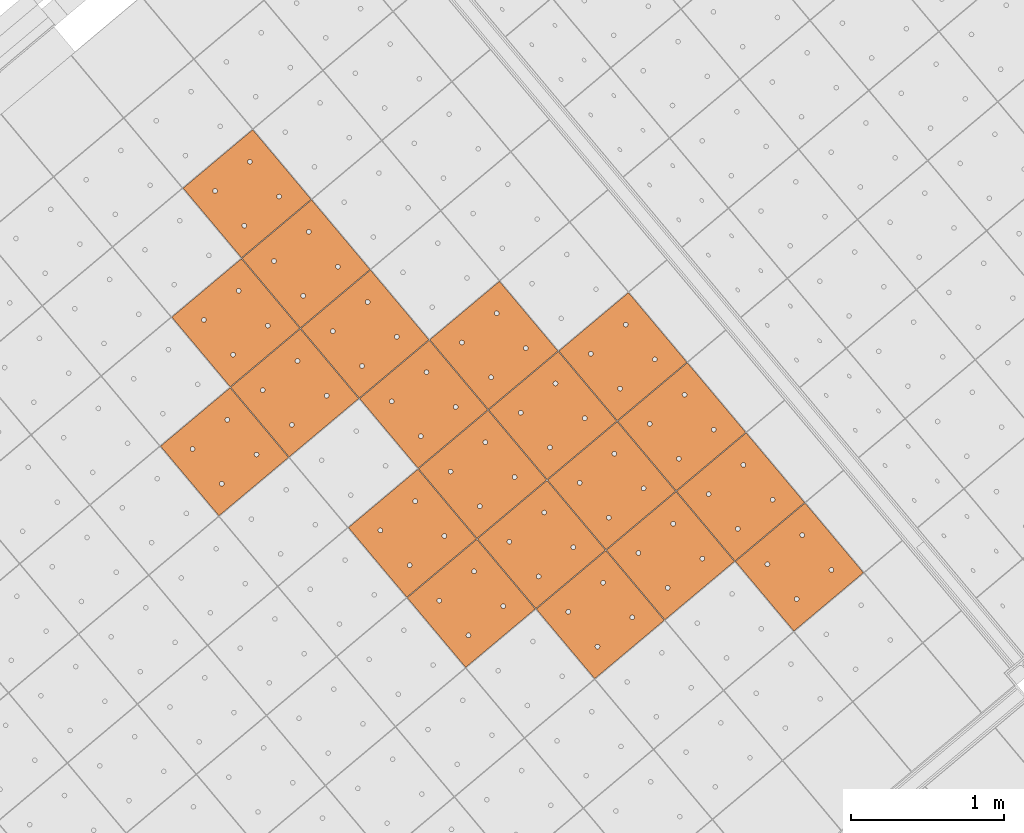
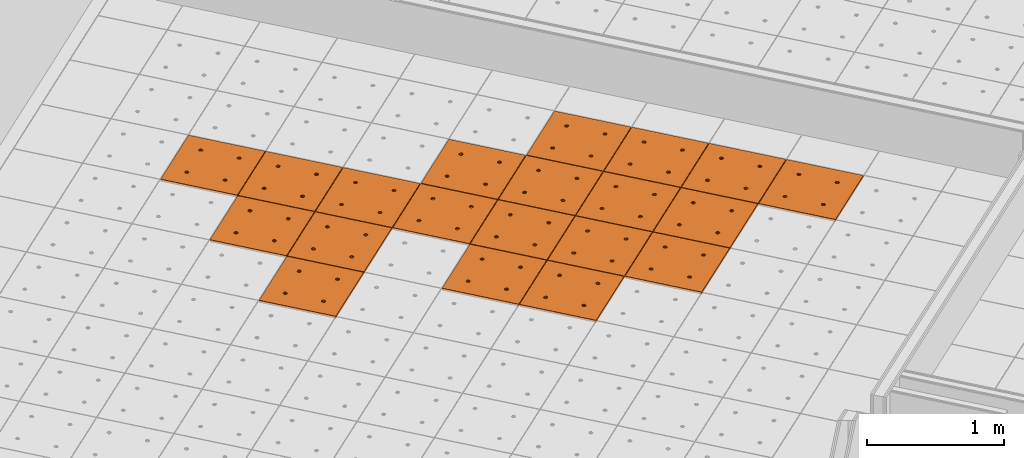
# One storey, part 157 of 338: 20 proxies, 1 element without a shape of its own.
"""IFC2X3 building model written with IfcOpenShell, lengths in millimetres."""

from ifc_helpers import new_model, entity, si_unit, converted_unit, derived_unit, money_unit, direction, frame, origin_with_axes, place, context, subcontext, project, spatial, faceted_brep, source, transform, mapped, material, type_object, type_shapes, element, aggregate, save


model = new_model("IFC2X3")

# Units and contexts
model_context = context("Model", 3, precision=0.01, world=origin_with_axes(), true_north=direction((0.0, 1.0)))
plan_context = context("Plan", 3, precision=0.01, world=origin_with_axes(), true_north=direction((0.0, 1.0)))
body_context = subcontext(model_context, "Body", "Model", "MODEL_VIEW")
ifc_project = project(units=[si_unit("LENGTHUNIT", "METRE", prefix="MILLI"), si_unit("AREAUNIT", "SQUARE_METRE"), si_unit("VOLUMEUNIT", "CUBIC_METRE"), converted_unit("PLANEANGLEUNIT", "DEGREE", entity("IfcPlaneAngleMeasure", 0.0174532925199), si_unit("PLANEANGLEUNIT", "RADIAN"), dimensions=[0, 0, 0, 0, 0, 0, 0]), money_unit("EUR"), converted_unit("TIMEUNIT", "Year", entity("IfcTimeMeasure", 31556926.0), si_unit("TIMEUNIT", "SECOND"), dimensions=[0, 0, 1, 0, 0, 0, 0]), si_unit("MASSUNIT", "GRAM", prefix="KILO"), si_unit("THERMODYNAMICTEMPERATUREUNIT", "DEGREE_CELSIUS"), si_unit("LUMINOUSINTENSITYUNIT", "LUMEN"), si_unit("ENERGYUNIT", "JOULE", prefix="MEGA"), derived_unit("THERMALCONDUCTANCEUNIT", [(si_unit("POWERUNIT", "WATT"), 1), (si_unit("LENGTHUNIT", "METRE"), -1), (si_unit("THERMODYNAMICTEMPERATUREUNIT", "KELVIN"), -1)]), derived_unit("SPECIFICHEATCAPACITYUNIT", [(si_unit("ENERGYUNIT", "JOULE"), 1), (si_unit("MASSUNIT", "GRAM", prefix="KILO"), -1), (si_unit("THERMODYNAMICTEMPERATUREUNIT", "KELVIN"), -1)]), derived_unit("MASSDENSITYUNIT", [(si_unit("MASSUNIT", "GRAM", prefix="KILO"), 1), (si_unit("VOLUMEUNIT", "CUBIC_METRE"), -1)])], contexts=[model_context, plan_context])

# Site, building, storey
site_placement = place(None, origin_with_axes())
site = spatial("IfcSite", under=ifc_project, at=site_placement, Name="Fortuinstraat Woensdrecht", CompositionType="ELEMENT")
building_placement = place(site_placement, origin_with_axes())
building = spatial("IfcBuilding", under=site, at=building_placement, Name="IKC Fortuna", CompositionType="ELEMENT")
storey_placement = place(building_placement, origin_with_axes())
storey = spatial("IfcBuildingStorey", under=building, at=storey_placement, Name="00 begane grond", CompositionType="ELEMENT", Elevation=0.0)

# Covering, proxies
covering_type = type_object("IfcCoveringType", Name="Curtain Wall Type", PredefinedType="CEILING")
covering_placement = place(storey_placement, frame((9775.85169731, -1002.28242867, 4660.0), z_axis=(0.0, 0.0, 1.0), x_axis=(1.0, 0.0, 0.0)))
covering = element("IfcCovering", 1, at=covering_placement, inside=storey, type_object=covering_type, Name="45_Plafondafwerking_P01", PredefinedType="CEILING")
ifc_material = material(Name="Gipsplaat")
building_element_proxy_type = type_object("IfcBuildingElementProxyType", Name="Main Panel 600 x 600 x 20", PredefinedType="NOTDEFINED")
shared_shape = source(origin_with_axes(), body_context, "Body", "Brep", [
    faceted_brep([(2.49999999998, 2.49999999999, -10.0), (300.0, 2.49999999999, -10.0), (300.0, 2.49999999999, 10.0), (2.49999999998, 2.49999999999, 10.0), (2.49999999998, 300.0, -10.0), (2.49999999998, 597.5, -10.0), (300.0, 597.5, -10.0), (597.5, 597.5, -10.0), (597.5, 300.0, -10.0), (597.5, 2.49999999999, -10.0), (166.25, 450.06232995, -10.0), (165.79423259, 452.64711538, -10.0), (164.896546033, 455.11348892, -10.0), (163.58421608, 457.38651108, -10.0), (161.897117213, 459.39711721, -10.0), (159.886511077, 461.08421608, -10.0), (157.613488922, 462.39654603, -10.0), (155.147115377, 463.29423259, -10.0), (152.562329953, 463.75, -10.0), (149.937670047, 463.75, -10.0), (147.352884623, 463.29423259, -10.0), (144.886511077, 462.39654603, -10.0), (142.613488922, 461.08421608, -10.0), (140.602882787, 459.39711721, -10.0), (138.91578392, 457.38651108, -10.0), (137.603453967, 455.11348892, -10.0), (136.705767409, 452.64711538, -10.0), (136.25, 450.06232995, -10.0), (136.25, 448.75, -10.0), (136.25, 447.43767005, -10.0), (136.705767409, 444.85288462, -10.0), (137.603453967, 442.38651108, -10.0), (138.91578392, 440.11348892, -10.0), (140.602882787, 438.10288279, -10.0), (142.613488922, 436.41578392, -10.0), (144.886511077, 435.10345397, -10.0), (147.352884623, 434.20576741, -10.0), (149.937670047, 433.75, -10.0), (152.562329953, 433.75, -10.0), (155.147115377, 434.20576741, -10.0), (157.613488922, 435.10345397, -10.0), (159.886511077, 436.41578392, -10.0), (161.897117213, 438.10288279, -10.0), (163.58421608, 440.11348892, -10.0), (164.896546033, 442.38651108, -10.0), (165.79423259, 444.85288462, -10.0), (166.25, 447.43767005, -10.0), (463.75, 450.06232995, -10.0), (463.29423259, 452.64711538, -10.0), (462.396546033, 455.11348892, -10.0), (461.08421608, 457.38651108, -10.0), (459.397117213, 459.39711721, -10.0), (457.386511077, 461.08421608, -10.0), (455.113488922, 462.39654603, -10.0), (452.647115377, 463.29423259, -10.0), (450.062329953, 463.75, -10.0), (447.437670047, 463.75, -10.0), (444.852884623, 463.29423259, -10.0), (442.386511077, 462.39654603, -10.0), (440.113488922, 461.08421608, -10.0), (438.102882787, 459.39711721, -10.0), (436.41578392, 457.38651108, -10.0), (435.103453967, 455.11348892, -10.0), (434.205767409, 452.64711538, -10.0), (433.75, 450.06232995, -10.0), (433.75, 448.75, -10.0), (433.75, 447.43767005, -10.0), (434.205767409, 444.85288462, -10.0), (435.103453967, 442.38651108, -10.0), (436.41578392, 440.11348892, -10.0), (438.102882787, 438.10288279, -10.0), (440.113488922, 436.41578392, -10.0), (442.386511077, 435.10345397, -10.0), (444.852884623, 434.20576741, -10.0), (447.437670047, 433.75, -10.0), (450.062329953, 433.75, -10.0), (452.647115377, 434.20576741, -10.0), (455.113488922, 435.10345397, -10.0), (457.386511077, 436.41578392, -10.0), (459.397117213, 438.10288279, -10.0), (461.08421608, 440.11348892, -10.0), (462.396546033, 442.38651108, -10.0), (463.29423259, 444.85288462, -10.0), (463.75, 447.43767005, -10.0), (463.75, 152.56232995, -10.0), (463.29423259, 155.14711538, -10.0), (462.396546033, 157.61348892, -10.0), (461.08421608, 159.88651108, -10.0), (459.397117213, 161.89711721, -10.0), (457.386511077, 163.58421608, -10.0), (455.113488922, 164.89654603, -10.0), (452.647115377, 165.79423259, -10.0), (450.062329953, 166.25, -10.0), (447.437670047, 166.25, -10.0), (444.852884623, 165.79423259, -10.0), (442.386511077, 164.89654603, -10.0), (440.113488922, 163.58421608, -10.0), (438.102882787, 161.89711721, -10.0), (436.41578392, 159.88651108, -10.0), (435.103453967, 157.61348892, -10.0), (434.205767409, 155.14711538, -10.0), (433.75, 152.56232995, -10.0), (433.75, 151.25, -10.0), (433.75, 149.93767005, -10.0), (434.205767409, 147.35288462, -10.0), (435.103453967, 144.88651108, -10.0), (436.41578392, 142.61348892, -10.0), (438.102882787, 140.60288279, -10.0), (440.113488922, 138.91578392, -10.0), (442.386511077, 137.60345397, -10.0), (444.852884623, 136.70576741, -10.0), (447.437670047, 136.25, -10.0), (450.062329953, 136.25, -10.0), (452.647115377, 136.70576741, -10.0), (455.113488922, 137.60345397, -10.0), (457.386511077, 138.91578392, -10.0), (459.397117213, 140.60288279, -10.0), (461.08421608, 142.61348892, -10.0), (462.396546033, 144.88651108, -10.0), (463.29423259, 147.35288462, -10.0), (463.75, 149.93767005, -10.0), (166.25, 152.56232995, -10.0), (165.79423259, 155.14711538, -10.0), (164.896546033, 157.61348892, -10.0), (163.58421608, 159.88651108, -10.0), (161.897117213, 161.89711721, -10.0), (159.886511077, 163.58421608, -10.0), (157.613488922, 164.89654603, -10.0), (155.147115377, 165.79423259, -10.0), (152.562329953, 166.25, -10.0), (149.937670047, 166.25, -10.0), (147.352884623, 165.79423259, -10.0), (144.886511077, 164.89654603, -10.0), (142.613488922, 163.58421608, -10.0), (140.602882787, 161.89711721, -10.0), (138.91578392, 159.88651108, -10.0), (137.603453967, 157.61348892, -10.0), (136.705767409, 155.14711538, -10.0), (136.25, 152.56232995, -10.0), (136.25, 151.25, -10.0), (136.25, 149.93767005, -10.0), (136.705767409, 147.35288462, -10.0), (137.603453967, 144.88651108, -10.0), (138.91578392, 142.61348892, -10.0), (140.602882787, 140.60288279, -10.0), (142.613488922, 138.91578392, -10.0), (144.886511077, 137.60345397, -10.0), (147.352884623, 136.70576741, -10.0), (149.937670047, 136.25, -10.0), (152.562329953, 136.25, -10.0), (155.147115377, 136.70576741, -10.0), (157.613488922, 137.60345397, -10.0), (159.886511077, 138.91578392, -10.0), (161.897117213, 140.60288279, -10.0), (163.58421608, 142.61348892, -10.0), (164.896546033, 144.88651108, -10.0), (165.79423259, 147.35288462, -10.0), (166.25, 149.93767005, -10.0), (597.5, 2.49999999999, 10.0), (597.5, 300.0, 10.0), (597.5, 597.5, 10.0), (300.0, 597.5, 10.0), (2.49999999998, 597.5, 10.0), (2.49999999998, 300.0, 10.0), (166.25, 450.06232995, 10.0), (166.25, 447.43767005, 10.0), (165.79423259, 444.85288462, 10.0), (164.896546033, 442.38651108, 10.0), (163.58421608, 440.11348892, 10.0), (161.897117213, 438.10288279, 10.0), (159.886511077, 436.41578392, 10.0), (157.613488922, 435.10345397, 10.0), (155.147115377, 434.20576741, 10.0), (152.562329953, 433.75, 10.0), (149.937670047, 433.75, 10.0), (147.352884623, 434.20576741, 10.0), (144.886511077, 435.10345397, 10.0), (142.613488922, 436.41578392, 10.0), (140.602882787, 438.10288279, 10.0), (138.91578392, 440.11348892, 10.0), (137.603453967, 442.38651108, 10.0), (136.705767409, 444.85288462, 10.0), (136.25, 447.43767005, 10.0), (136.25, 448.75, 10.0), (136.25, 450.06232995, 10.0), (136.705767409, 452.64711538, 10.0), (137.603453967, 455.11348892, 10.0), (138.91578392, 457.38651108, 10.0), (140.602882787, 459.39711721, 10.0), (142.613488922, 461.08421608, 10.0), (144.886511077, 462.39654603, 10.0), (147.352884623, 463.29423259, 10.0), (149.937670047, 463.75, 10.0), (152.562329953, 463.75, 10.0), (155.147115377, 463.29423259, 10.0), (157.613488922, 462.39654603, 10.0), (159.886511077, 461.08421608, 10.0), (161.897117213, 459.39711721, 10.0), (163.58421608, 457.38651108, 10.0), (164.896546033, 455.11348892, 10.0), (165.79423259, 452.64711538, 10.0), (463.75, 450.06232995, 10.0), (463.75, 447.43767005, 10.0), (463.29423259, 444.85288462, 10.0), (462.396546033, 442.38651108, 10.0), (461.08421608, 440.11348892, 10.0), (459.397117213, 438.10288279, 10.0), (457.386511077, 436.41578392, 10.0), (455.113488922, 435.10345397, 10.0), (452.647115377, 434.20576741, 10.0), (450.062329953, 433.75, 10.0), (447.437670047, 433.75, 10.0), (444.852884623, 434.20576741, 10.0), (442.386511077, 435.10345397, 10.0), (440.113488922, 436.41578392, 10.0), (438.102882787, 438.10288279, 10.0), (436.41578392, 440.11348892, 10.0), (435.103453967, 442.38651108, 10.0), (434.205767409, 444.85288462, 10.0), (433.75, 447.43767005, 10.0), (433.75, 448.75, 10.0), (433.75, 450.06232995, 10.0), (434.205767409, 452.64711538, 10.0), (435.103453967, 455.11348892, 10.0), (436.41578392, 457.38651108, 10.0), (438.102882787, 459.39711721, 10.0), (440.113488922, 461.08421608, 10.0), (442.386511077, 462.39654603, 10.0), (444.852884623, 463.29423259, 10.0), (447.437670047, 463.75, 10.0), (450.062329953, 463.75, 10.0), (452.647115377, 463.29423259, 10.0), (455.113488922, 462.39654603, 10.0), (457.386511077, 461.08421608, 10.0), (459.397117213, 459.39711721, 10.0), (461.08421608, 457.38651108, 10.0), (462.396546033, 455.11348892, 10.0), (463.29423259, 452.64711538, 10.0), (463.75, 152.56232995, 10.0), (463.75, 149.93767005, 10.0), (463.29423259, 147.35288462, 10.0), (462.396546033, 144.88651108, 10.0), (461.08421608, 142.61348892, 10.0), (459.397117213, 140.60288279, 10.0), (457.386511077, 138.91578392, 10.0), (455.113488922, 137.60345397, 10.0), (452.647115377, 136.70576741, 10.0), (450.062329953, 136.25, 10.0), (447.437670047, 136.25, 10.0), (444.852884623, 136.70576741, 10.0), (442.386511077, 137.60345397, 10.0), (440.113488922, 138.91578392, 10.0), (438.102882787, 140.60288279, 10.0), (436.41578392, 142.61348892, 10.0), (435.103453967, 144.88651108, 10.0), (434.205767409, 147.35288462, 10.0), (433.75, 149.93767005, 10.0), (433.75, 151.25, 10.0), (433.75, 152.56232995, 10.0), (434.205767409, 155.14711538, 10.0), (435.103453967, 157.61348892, 10.0), (436.41578392, 159.88651108, 10.0), (438.102882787, 161.89711721, 10.0), (440.113488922, 163.58421608, 10.0), (442.386511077, 164.89654603, 10.0), (444.852884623, 165.79423259, 10.0), (447.437670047, 166.25, 10.0), (450.062329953, 166.25, 10.0), (452.647115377, 165.79423259, 10.0), (455.113488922, 164.89654603, 10.0), (457.386511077, 163.58421608, 10.0), (459.397117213, 161.89711721, 10.0), (461.08421608, 159.88651108, 10.0), (462.396546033, 157.61348892, 10.0), (463.29423259, 155.14711538, 10.0), (166.25, 152.56232995, 10.0), (166.25, 149.93767005, 10.0), (165.79423259, 147.35288462, 10.0), (164.896546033, 144.88651108, 10.0), (163.58421608, 142.61348892, 10.0), (161.897117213, 140.60288279, 10.0), (159.886511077, 138.91578392, 10.0), (157.613488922, 137.60345397, 10.0), (155.147115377, 136.70576741, 10.0), (152.562329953, 136.25, 10.0), (149.937670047, 136.25, 10.0), (147.352884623, 136.70576741, 10.0), (144.886511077, 137.60345397, 10.0), (142.613488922, 138.91578392, 10.0), (140.602882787, 140.60288279, 10.0), (138.91578392, 142.61348892, 10.0), (137.603453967, 144.88651108, 10.0), (136.705767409, 147.35288462, 10.0), (136.25, 149.93767005, 10.0), (136.25, 151.25, 10.0), (136.25, 152.56232995, 10.0), (136.705767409, 155.14711538, 10.0), (137.603453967, 157.61348892, 10.0), (138.91578392, 159.88651108, 10.0), (140.602882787, 161.89711721, 10.0), (142.613488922, 163.58421608, 10.0), (144.886511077, 164.89654603, 10.0), (147.352884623, 165.79423259, 10.0), (149.937670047, 166.25, 10.0), (152.562329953, 166.25, 10.0), (155.147115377, 165.79423259, 10.0), (157.613488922, 164.89654603, 10.0), (159.886511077, 163.58421608, 10.0), (161.897117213, 161.89711721, 10.0), (163.58421608, 159.88651108, 10.0), (164.896546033, 157.61348892, 10.0), (165.79423259, 155.14711538, 10.0)], [[[0, 1, 2, 3]], [[0, 4, 5, 6, 7, 8, 9, 1], [10, 11, 12, 13, 14, 15, 16, 17, 18, 19, 20, 21, 22, 23, 24, 25, 26, 27, 28, 29, 30, 31, 32, 33, 34, 35, 36, 37, 38, 39, 40, 41, 42, 43, 44, 45, 46], [47, 48, 49, 50, 51, 52, 53, 54, 55, 56, 57, 58, 59, 60, 61, 62, 63, 64, 65, 66, 67, 68, 69, 70, 71, 72, 73, 74, 75, 76, 77, 78, 79, 80, 81, 82, 83], [84, 85, 86, 87, 88, 89, 90, 91, 92, 93, 94, 95, 96, 97, 98, 99, 100, 101, 102, 103, 104, 105, 106, 107, 108, 109, 110, 111, 112, 113, 114, 115, 116, 117, 118, 119, 120], [121, 122, 123, 124, 125, 126, 127, 128, 129, 130, 131, 132, 133, 134, 135, 136, 137, 138, 139, 140, 141, 142, 143, 144, 145, 146, 147, 148, 149, 150, 151, 152, 153, 154, 155, 156, 157]], [[1, 9, 158, 2]], [[3, 2, 158, 159, 160, 161, 162, 163], [164, 165, 166, 167, 168, 169, 170, 171, 172, 173, 174, 175, 176, 177, 178, 179, 180, 181, 182, 183, 184, 185, 186, 187, 188, 189, 190, 191, 192, 193, 194, 195, 196, 197, 198, 199, 200], [201, 202, 203, 204, 205, 206, 207, 208, 209, 210, 211, 212, 213, 214, 215, 216, 217, 218, 219, 220, 221, 222, 223, 224, 225, 226, 227, 228, 229, 230, 231, 232, 233, 234, 235, 236, 237], [238, 239, 240, 241, 242, 243, 244, 245, 246, 247, 248, 249, 250, 251, 252, 253, 254, 255, 256, 257, 258, 259, 260, 261, 262, 263, 264, 265, 266, 267, 268, 269, 270, 271, 272, 273, 274], [275, 276, 277, 278, 279, 280, 281, 282, 283, 284, 285, 286, 287, 288, 289, 290, 291, 292, 293, 294, 295, 296, 297, 298, 299, 300, 301, 302, 303, 304, 305, 306, 307, 308, 309, 310, 311]], [[4, 0, 3, 163]], [[5, 4, 163, 162]], [[6, 5, 162, 161]], [[7, 6, 161, 160]], [[8, 7, 160, 159]], [[9, 8, 159, 158]], [[11, 10, 164, 200]], [[12, 11, 200, 199]], [[13, 12, 199, 198]], [[14, 13, 198, 197]], [[15, 14, 197, 196]], [[16, 15, 196, 195]], [[17, 16, 195, 194]], [[18, 17, 194, 193]], [[19, 18, 193, 192]], [[20, 19, 192, 191]], [[21, 20, 191, 190]], [[22, 21, 190, 189]], [[23, 22, 189, 188]], [[24, 23, 188, 187]], [[25, 24, 187, 186]], [[26, 25, 186, 185]], [[27, 26, 185, 184]], [[28, 27, 184, 183]], [[29, 28, 183, 182]], [[30, 29, 182, 181]], [[31, 30, 181, 180]], [[32, 31, 180, 179]], [[33, 32, 179, 178]], [[34, 33, 178, 177]], [[35, 34, 177, 176]], [[36, 35, 176, 175]], [[37, 36, 175, 174]], [[38, 37, 174, 173]], [[39, 38, 173, 172]], [[40, 39, 172, 171]], [[41, 40, 171, 170]], [[42, 41, 170, 169]], [[43, 42, 169, 168]], [[44, 43, 168, 167]], [[45, 44, 167, 166]], [[46, 45, 166, 165]], [[10, 46, 165, 164]], [[48, 47, 201, 237]], [[49, 48, 237, 236]], [[50, 49, 236, 235]], [[51, 50, 235, 234]], [[52, 51, 234, 233]], [[53, 52, 233, 232]], [[54, 53, 232, 231]], [[55, 54, 231, 230]], [[56, 55, 230, 229]], [[57, 56, 229, 228]], [[58, 57, 228, 227]], [[59, 58, 227, 226]], [[60, 59, 226, 225]], [[61, 60, 225, 224]], [[62, 61, 224, 223]], [[63, 62, 223, 222]], [[64, 63, 222, 221]], [[65, 64, 221, 220]], [[66, 65, 220, 219]], [[67, 66, 219, 218]], [[68, 67, 218, 217]], [[69, 68, 217, 216]], [[70, 69, 216, 215]], [[71, 70, 215, 214]], [[72, 71, 214, 213]], [[73, 72, 213, 212]], [[74, 73, 212, 211]], [[75, 74, 211, 210]], [[76, 75, 210, 209]], [[77, 76, 209, 208]], [[78, 77, 208, 207]], [[79, 78, 207, 206]], [[80, 79, 206, 205]], [[81, 80, 205, 204]], [[82, 81, 204, 203]], [[83, 82, 203, 202]], [[47, 83, 202, 201]], [[85, 84, 238, 274]], [[86, 85, 274, 273]], [[87, 86, 273, 272]], [[88, 87, 272, 271]], [[89, 88, 271, 270]], [[90, 89, 270, 269]], [[91, 90, 269, 268]], [[92, 91, 268, 267]], [[93, 92, 267, 266]], [[94, 93, 266, 265]], [[95, 94, 265, 264]], [[96, 95, 264, 263]], [[97, 96, 263, 262]], [[98, 97, 262, 261]], [[99, 98, 261, 260]], [[100, 99, 260, 259]], [[101, 100, 259, 258]], [[102, 101, 258, 257]], [[103, 102, 257, 256]], [[104, 103, 256, 255]], [[105, 104, 255, 254]], [[106, 105, 254, 253]], [[107, 106, 253, 252]], [[108, 107, 252, 251]], [[109, 108, 251, 250]], [[110, 109, 250, 249]], [[111, 110, 249, 248]], [[112, 111, 248, 247]], [[113, 112, 247, 246]], [[114, 113, 246, 245]], [[115, 114, 245, 244]], [[116, 115, 244, 243]], [[117, 116, 243, 242]], [[118, 117, 242, 241]], [[119, 118, 241, 240]], [[120, 119, 240, 239]], [[84, 120, 239, 238]], [[122, 121, 275, 311]], [[123, 122, 311, 310]], [[124, 123, 310, 309]], [[125, 124, 309, 308]], [[126, 125, 308, 307]], [[127, 126, 307, 306]], [[128, 127, 306, 305]], [[129, 128, 305, 304]], [[130, 129, 304, 303]], [[131, 130, 303, 302]], [[132, 131, 302, 301]], [[133, 132, 301, 300]], [[134, 133, 300, 299]], [[135, 134, 299, 298]], [[136, 135, 298, 297]], [[137, 136, 297, 296]], [[138, 137, 296, 295]], [[139, 138, 295, 294]], [[140, 139, 294, 293]], [[141, 140, 293, 292]], [[142, 141, 292, 291]], [[143, 142, 291, 290]], [[144, 143, 290, 289]], [[145, 144, 289, 288]], [[146, 145, 288, 287]], [[147, 146, 287, 286]], [[148, 147, 286, 285]], [[149, 148, 285, 284]], [[150, 149, 284, 283]], [[151, 150, 283, 282]], [[152, 151, 282, 281]], [[153, 152, 281, 280]], [[154, 153, 280, 279]], [[155, 154, 279, 278]], [[156, 155, 278, 277]], [[157, 156, 277, 276]], [[121, 157, 276, 275]]]),
])
type_shapes(building_element_proxy_type, [shared_shape])
proxy_1_placement = place(covering_placement, frame((-4390.30729272, 3365.29376383, 0.0), z_axis=(0.0, 0.0, 1.0), x_axis=(1.0, 0.0, 0.0)))
proxy_1 = element("IfcBuildingElementProxy", 2, at=proxy_1_placement, type_object=building_element_proxy_type, material=ifc_material, Name="__600x648 Rockfon Krios", context=body_context, shape_type="MappedRepresentation", body=[
    mapped(shared_shape, transform((36.9769427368, 422.649625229, 0.0), x_axis=(-0.766044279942, -0.642787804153, 0.0), y_axis=(0.642787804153, -0.766044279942, 0.0), z_axis=(0.0, 0.0, 1.0))),
])
proxy_2_placement = place(covering_placement, frame((-4464.2611782, 2519.99451337, 0.0), z_axis=(0.0, 0.0, 1.0), x_axis=(1.0, 0.0, 0.0)))
proxy_2 = element("IfcBuildingElementProxy", 3, at=proxy_2_placement, type_object=building_element_proxy_type, material=ifc_material, Name="__600x663 Rockfon Krios", context=body_context, shape_type="MappedRepresentation", body=[
    mapped(shared_shape, transform((36.9769427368, 422.649625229, 0.0), x_axis=(-0.766044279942, -0.642787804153, 0.0), y_axis=(0.642787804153, -0.766044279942, 0.0), z_axis=(0.0, 0.0, 1.0))),
])
proxy_3_placement = place(covering_placement, frame((-1928.36342683, 2298.13285695, 0.0), z_axis=(0.0, 0.0, 1.0), x_axis=(1.0, 0.0, 0.0)))
proxy_3 = element("IfcBuildingElementProxy", 4, at=proxy_3_placement, type_object=building_element_proxy_type, material=ifc_material, Name="__600x693 Rockfon Krios", context=body_context, shape_type="MappedRepresentation", body=[
    mapped(shared_shape, transform((36.9769427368, 422.649625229, 0.0), x_axis=(-0.766044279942, -0.642787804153, 0.0), y_axis=(0.642787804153, -0.766044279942, 0.0), z_axis=(0.0, 0.0, 1.0))),
])
proxy_4_placement = place(covering_placement, frame((-1542.69074433, 1838.50628898, 0.0), z_axis=(0.0, 0.0, 1.0), x_axis=(1.0, 0.0, 0.0)))
proxy_4 = element("IfcBuildingElementProxy", 5, at=proxy_4_placement, type_object=building_element_proxy_type, material=ifc_material, Name="__600x694 Rockfon Krios", context=body_context, shape_type="MappedRepresentation", body=[
    mapped(shared_shape, transform((36.9769427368, 422.649625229, 0.0), x_axis=(-0.766044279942, -0.642787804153, 0.0), y_axis=(0.642787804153, -0.766044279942, 0.0), z_axis=(0.0, 0.0, 1.0))),
])
proxy_5_placement = place(covering_placement, frame((-1157.01806184, 1378.87972102, 0.0), z_axis=(0.0, 0.0, 1.0), x_axis=(1.0, 0.0, 0.0)))
proxy_5 = element("IfcBuildingElementProxy", 6, at=proxy_5_placement, type_object=building_element_proxy_type, material=ifc_material, Name="__600x695 Rockfon Krios", context=body_context, shape_type="MappedRepresentation", body=[
    mapped(shared_shape, transform((36.9769427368, 422.649625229, 0.0), x_axis=(-0.766044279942, -0.642787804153, 0.0), y_axis=(0.642787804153, -0.766044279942, 0.0), z_axis=(0.0, 0.0, 1.0))),
])
proxy_6_placement = place(covering_placement, frame((-771.345379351, 919.253153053, 0.0), z_axis=(0.0, 0.0, 1.0), x_axis=(1.0, 0.0, 0.0)))
proxy_6 = element("IfcBuildingElementProxy", 7, at=proxy_6_placement, type_object=building_element_proxy_type, material=ifc_material, Name="__600x696 Rockfon Krios", context=body_context, shape_type="MappedRepresentation", body=[
    mapped(shared_shape, transform((36.9769427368, 422.649625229, 0.0), x_axis=(-0.766044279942, -0.642787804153, 0.0), y_axis=(0.642787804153, -0.766044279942, 0.0), z_axis=(0.0, 0.0, 1.0))),
])
proxy_7_placement = place(covering_placement, frame((-2773.66267728, 2372.08674242, 0.0), z_axis=(0.0, 0.0, 1.0), x_axis=(1.0, 0.0, 0.0)))
proxy_7 = element("IfcBuildingElementProxy", 8, at=proxy_7_placement, type_object=building_element_proxy_type, material=ifc_material, Name="__600x701 Rockfon Krios", context=body_context, shape_type="MappedRepresentation", body=[
    mapped(shared_shape, transform((36.9769427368, 422.649625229, 0.0), x_axis=(-0.766044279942, -0.642787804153, 0.0), y_axis=(0.642787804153, -0.766044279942, 0.0), z_axis=(0.0, 0.0, 1.0))),
])
proxy_8_placement = place(covering_placement, frame((-2387.98999479, 1912.46017446, 0.0), z_axis=(0.0, 0.0, 1.0), x_axis=(1.0, 0.0, 0.0)))
proxy_8 = element("IfcBuildingElementProxy", 9, at=proxy_8_placement, type_object=building_element_proxy_type, material=ifc_material, Name="__600x702 Rockfon Krios", context=body_context, shape_type="MappedRepresentation", body=[
    mapped(shared_shape, transform((36.9769427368, 422.649625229, 0.0), x_axis=(-0.766044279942, -0.642787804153, 0.0), y_axis=(0.642787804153, -0.766044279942, 0.0), z_axis=(0.0, 0.0, 1.0))),
])
proxy_9_placement = place(covering_placement, frame((-2002.3173123, 1452.83360649, 0.0), z_axis=(0.0, 0.0, 1.0), x_axis=(1.0, 0.0, 0.0)))
proxy_9 = element("IfcBuildingElementProxy", 10, at=proxy_9_placement, type_object=building_element_proxy_type, material=ifc_material, Name="__600x703 Rockfon Krios", context=body_context, shape_type="MappedRepresentation", body=[
    mapped(shared_shape, transform((36.9769427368, 422.649625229, 0.0), x_axis=(-0.766044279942, -0.642787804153, 0.0), y_axis=(0.642787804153, -0.766044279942, 0.0), z_axis=(0.0, 0.0, 1.0))),
])
proxy_10_placement = place(covering_placement, frame((-1616.64462981, 993.207038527, 0.0), z_axis=(0.0, 0.0, 1.0), x_axis=(1.0, 0.0, 0.0)))
proxy_10 = element("IfcBuildingElementProxy", 11, at=proxy_10_placement, type_object=building_element_proxy_type, material=ifc_material, Name="__600x704 Rockfon Krios", context=body_context, shape_type="MappedRepresentation", body=[
    mapped(shared_shape, transform((36.9769427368, 422.649625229, 0.0), x_axis=(-0.766044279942, -0.642787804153, 0.0), y_axis=(0.642787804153, -0.766044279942, 0.0), z_axis=(0.0, 0.0, 1.0))),
])
proxy_11_placement = place(covering_placement, frame((-4004.63461023, 2905.66719586, 0.0), z_axis=(0.0, 0.0, 1.0), x_axis=(1.0, 0.0, 0.0)))
proxy_11 = element("IfcBuildingElementProxy", 12, at=proxy_11_placement, type_object=building_element_proxy_type, material=ifc_material, Name="__600x708 Rockfon Krios", context=body_context, shape_type="MappedRepresentation", body=[
    mapped(shared_shape, transform((36.9769427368, 422.649625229, 0.0), x_axis=(-0.766044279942, -0.642787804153, 0.0), y_axis=(0.642787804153, -0.766044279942, 0.0), z_axis=(0.0, 0.0, 1.0))),
])
proxy_12_placement = place(covering_placement, frame((-3618.96192774, 2446.0406279, 0.0), z_axis=(0.0, 0.0, 1.0), x_axis=(1.0, 0.0, 0.0)))
proxy_12 = element("IfcBuildingElementProxy", 13, at=proxy_12_placement, type_object=building_element_proxy_type, material=ifc_material, Name="__600x709 Rockfon Krios", context=body_context, shape_type="MappedRepresentation", body=[
    mapped(shared_shape, transform((36.9769427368, 422.649625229, 0.0), x_axis=(-0.766044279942, -0.642787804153, 0.0), y_axis=(0.642787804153, -0.766044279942, 0.0), z_axis=(0.0, 0.0, 1.0))),
])
proxy_13_placement = place(covering_placement, frame((-3233.28924525, 1986.41405993, 0.0), z_axis=(0.0, 0.0, 1.0), x_axis=(1.0, 0.0, 0.0)))
proxy_13 = element("IfcBuildingElementProxy", 14, at=proxy_13_placement, type_object=building_element_proxy_type, material=ifc_material, Name="__600x710 Rockfon Krios", context=body_context, shape_type="MappedRepresentation", body=[
    mapped(shared_shape, transform((36.9769427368, 422.649625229, 0.0), x_axis=(-0.766044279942, -0.642787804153, 0.0), y_axis=(0.642787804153, -0.766044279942, 0.0), z_axis=(0.0, 0.0, 1.0))),
])
proxy_14_placement = place(covering_placement, frame((-2847.61656276, 1526.78749197, 0.0), z_axis=(0.0, 0.0, 1.0), x_axis=(1.0, 0.0, 0.0)))
proxy_14 = element("IfcBuildingElementProxy", 15, at=proxy_14_placement, type_object=building_element_proxy_type, material=ifc_material, Name="__600x711 Rockfon Krios", context=body_context, shape_type="MappedRepresentation", body=[
    mapped(shared_shape, transform((36.9769427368, 422.649625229, 0.0), x_axis=(-0.766044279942, -0.642787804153, 0.0), y_axis=(0.642787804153, -0.766044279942, 0.0), z_axis=(0.0, 0.0, 1.0))),
])
proxy_15_placement = place(covering_placement, frame((-2461.94388027, 1067.160924, 0.0), z_axis=(0.0, 0.0, 1.0), x_axis=(1.0, 0.0, 0.0)))
proxy_15 = element("IfcBuildingElementProxy", 16, at=proxy_15_placement, type_object=building_element_proxy_type, material=ifc_material, Name="__600x712 Rockfon Krios", context=body_context, shape_type="MappedRepresentation", body=[
    mapped(shared_shape, transform((36.9769427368, 422.649625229, 0.0), x_axis=(-0.766044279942, -0.642787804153, 0.0), y_axis=(0.642787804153, -0.766044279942, 0.0), z_axis=(0.0, 0.0, 1.0))),
])
proxy_16_placement = place(covering_placement, frame((-2076.27119777, 607.534356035, 0.0), z_axis=(0.0, 0.0, 1.0), x_axis=(1.0, 0.0, 0.0)))
proxy_16 = element("IfcBuildingElementProxy", 17, at=proxy_16_placement, type_object=building_element_proxy_type, material=ifc_material, Name="__600x713 Rockfon Krios", context=body_context, shape_type="MappedRepresentation", body=[
    mapped(shared_shape, transform((36.9769427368, 422.649625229, 0.0), x_axis=(-0.766044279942, -0.642787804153, 0.0), y_axis=(0.642787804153, -0.766044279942, 0.0), z_axis=(0.0, 0.0, 1.0))),
])
proxy_17_placement = place(covering_placement, frame((-4078.58849571, 2060.3679454, 0.0), z_axis=(0.0, 0.0, 1.0), x_axis=(1.0, 0.0, 0.0)))
proxy_17 = element("IfcBuildingElementProxy", 18, at=proxy_17_placement, type_object=building_element_proxy_type, material=ifc_material, Name="__600x718 Rockfon Krios", context=body_context, shape_type="MappedRepresentation", body=[
    mapped(shared_shape, transform((36.9769427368, 422.649625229, 0.0), x_axis=(-0.766044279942, -0.642787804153, 0.0), y_axis=(0.642787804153, -0.766044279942, 0.0), z_axis=(0.0, 0.0, 1.0))),
])
proxy_18_placement = place(covering_placement, frame((-3307.24313072, 1141.11480947, 0.0), z_axis=(0.0, 0.0, 1.0), x_axis=(1.0, 0.0, 0.0)))
proxy_18 = element("IfcBuildingElementProxy", 19, at=proxy_18_placement, type_object=building_element_proxy_type, material=ifc_material, Name="__600x720 Rockfon Krios", context=body_context, shape_type="MappedRepresentation", body=[
    mapped(shared_shape, transform((36.9769427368, 422.649625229, 0.0), x_axis=(-0.766044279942, -0.642787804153, 0.0), y_axis=(0.642787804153, -0.766044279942, 0.0), z_axis=(0.0, 0.0, 1.0))),
])
proxy_19_placement = place(covering_placement, frame((-2921.57044823, 681.488241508, 0.0), z_axis=(0.0, 0.0, 1.0), x_axis=(1.0, 0.0, 0.0)))
proxy_19 = element("IfcBuildingElementProxy", 20, at=proxy_19_placement, type_object=building_element_proxy_type, material=ifc_material, Name="__600x721 Rockfon Krios", context=body_context, shape_type="MappedRepresentation", body=[
    mapped(shared_shape, transform((36.9769427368, 422.649625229, 0.0), x_axis=(-0.766044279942, -0.642787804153, 0.0), y_axis=(0.642787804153, -0.766044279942, 0.0), z_axis=(0.0, 0.0, 1.0))),
])
proxy_20_placement = place(covering_placement, frame((-4538.21506367, 1674.69526291, 0.0), z_axis=(0.0, 0.0, 1.0), x_axis=(1.0, 0.0, 0.0)))
proxy_20 = element("IfcBuildingElementProxy", 21, at=proxy_20_placement, type_object=building_element_proxy_type, material=ifc_material, Name="__600x727 Rockfon Krios", context=body_context, shape_type="MappedRepresentation", body=[
    mapped(shared_shape, transform((36.9769427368, 422.649625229, 0.0), x_axis=(-0.766044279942, -0.642787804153, 0.0), y_axis=(0.642787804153, -0.766044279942, 0.0), z_axis=(0.0, 0.0, 1.0))),
])
aggregate(covering, [proxy_1, proxy_2, proxy_3, proxy_4, proxy_5, proxy_6, proxy_7, proxy_8, proxy_9, proxy_10, proxy_11, proxy_12, proxy_13, proxy_14, proxy_15, proxy_16, proxy_17, proxy_18, proxy_19, proxy_20])

save(model, "model.ifc")
